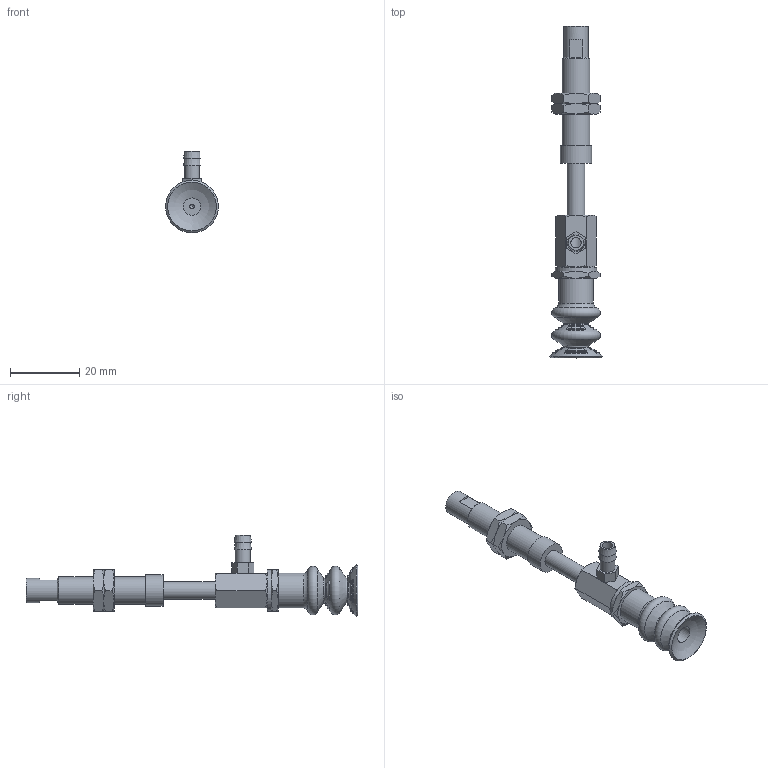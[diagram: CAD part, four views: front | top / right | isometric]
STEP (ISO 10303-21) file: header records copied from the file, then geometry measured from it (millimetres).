
FILE_DESCRIPTION(('STEP AP203'),'1');
FILE_NAME('-T.stp','2025-04-03T06:59:59',(' '),(' '),'Spatial InterOp 3D',' ',' ');
FILE_SCHEMA(('CONFIG_CONTROL_DESIGN'));
Length unit declared in the file: millimetre
Products named in the file (8): BNABPCYS-15-15-※-T; Adapter_napc-15-T; Connector_s-15-15; Nut napc_s-15-15; NAPCTS-15-15-FBODY; NAPCTS-15-15-MBODY; BPCG-15-※; T
Assembly tree (8 placements, depth 2):
  BNABPCYS-15-15-※-T
    Adapter_napc-15-T
    Connector_s-15-15
    Nut napc_s-15-15  x2
    NAPCTS-15-15-FBODY
    NAPCTS-15-15-MBODY
    BPCG-15-※
    T
Bounding box: 15.2 x 95.7 x 23.6 mm (x, y, z)
Volume: 6251.5 mm3; surface area: 6645.3 mm2
Topology: 8 solids, 8 shells, 255 faces, 735 edges, 473 vertices
Faces by surface type: cone 71, plane 70, sphere 58, torus 34, cylinder 22
Full cylindrical faces by diameter (mm): 1.25 x1, 3 x1, 4.134 x3, 4.3 x1, 5 x9, 7 x1, 7.188 x2, 8 x1, 9 x1, 10 x1, 12 x1
Entity records: 7245 total; most frequent: CARTESIAN_POINT 2001, DIRECTION 1058, ORIENTED_EDGE 888, AXIS2_PLACEMENT_3D 497, EDGE_CURVE 444, EDGE_LOOP 332, VERTEX_POINT 315, FACE_OUTER_BOUND 261
